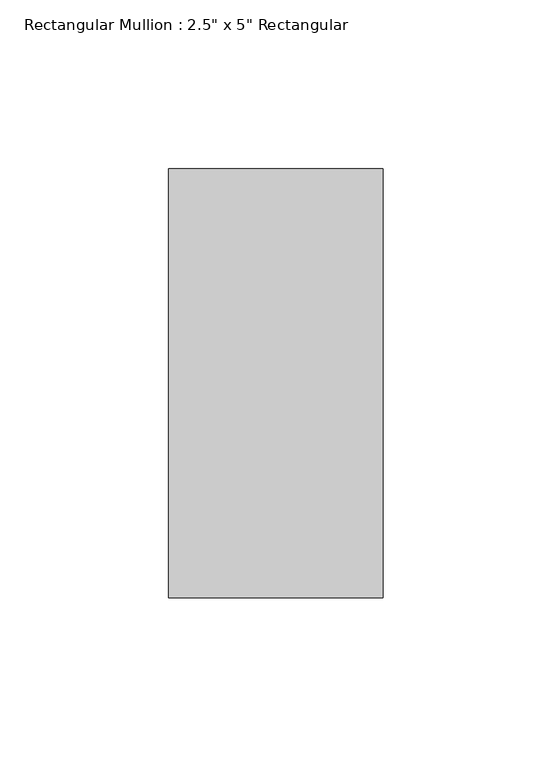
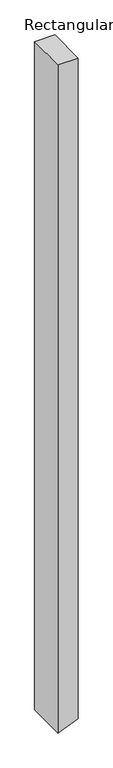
"""IFC4 building model written with IfcOpenShell, lengths in millimetres: member geometry."""

from ifc_helpers import new_model, si_unit, frame, origin, place, context, project, spatial, polyline, outline, extrude, source, transform, mapped, element, save


def member_0a1949f2(model_context):
    return source(origin(), model_context, "Body", "SweptSolid", [
        extrude(outline(polyline([(0.0, 31.75), (0.0, -31.75), (-2220.8450481, -31.75), (-2217.7009107, -24.0768927), (-2194.8252471, 31.75), (0.0, 31.75)])), frame((0.0, -63.5, 0.0), z_axis=(0.0, 1.0, 0.0), x_axis=(0.0, 0.0, 1.0)), (0.0, 0.0, 1.0), 127.0),
    ])


if __name__ == "__main__":
    model = new_model("IFC4")
    model_context = context("Model", 3, world=origin())
    ifc_project = project(units=[si_unit("LENGTHUNIT", "METRE", prefix="MILLI")], contexts=[model_context])
    site = spatial("IfcSite", under=ifc_project)
    building = spatial("IfcBuilding", under=site)
    placement = place(None, origin())
    member_shape = member_0a1949f2(model_context)
    element("IfcMember", 1, ObjectType="Rectangular Mullion : 2.5\" x 5\" Rectangular", at=placement, inside=building, context=model_context, shape_type="MappedRepresentation", body=[
        mapped(member_shape, transform((0.0, 0.0, 0.0), x_axis=(1.0, 0.0, 0.0), y_axis=(0.0, 1.0, 0.0), z_axis=(0.0, 0.0, 1.0))),
    ])
    save(model, "model.ifc")
